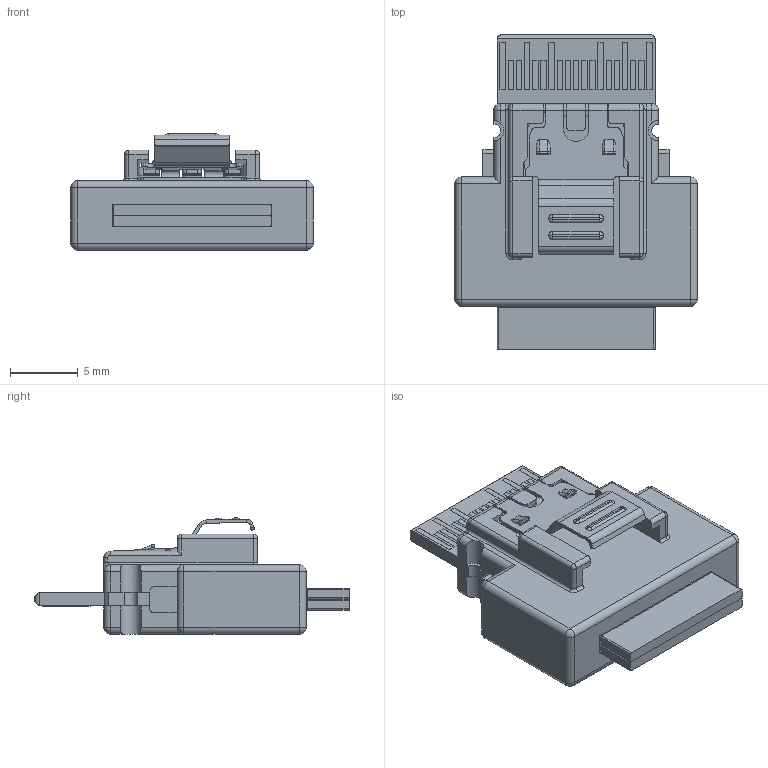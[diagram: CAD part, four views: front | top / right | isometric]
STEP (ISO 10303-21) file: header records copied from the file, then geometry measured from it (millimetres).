
FILE_DESCRIPTION((''),'2;1');
FILE_NAME('ASM0001_ASM','2016-06-28T',('louischan'),(''),'PRO/ENGINEER BY PARAMETRIC TECHNOLOGY CORPORATION, 2013230','PRO/ENGINEER BY PARAMETRIC TECHNOLOGY CORPORATION, 2013230','');
FILE_SCHEMA(('CONFIG_CONTROL_DESIGN'));
Length unit declared in the file: millimetre
Products named in the file (6): PRT0029; PRT0031; PRT0032; ASM0003_ASM; PRT0038; ASM0001_ASM
Assembly tree (6 placements, depth 3):
  ASM0001_ASM
    ASM0003_ASM
      PRT0029
      PRT0031
      PRT0032  x2
    PRT0038
Bounding box: 17.85 x 23.1 x 8.54 mm (x, y, z)
Volume: 1227.8 mm3; surface area: 2218.6 mm2
Topology: 5 solids, 5 shells, 1048 faces, 2729 edges, 1776 vertices
Faces by surface type: plane 765, cylinder 172, extrusion 73, sphere 16, bspline 12, torus 10
Entity records: 32393 total; most frequent: CARTESIAN_POINT 6888, ORIENTED_EDGE 5378, DIRECTION 4878, EDGE_CURVE 2689, VECTOR 2204, LINE 2131, VERTEX_POINT 1760, AXIS2_PLACEMENT_3D 1337
